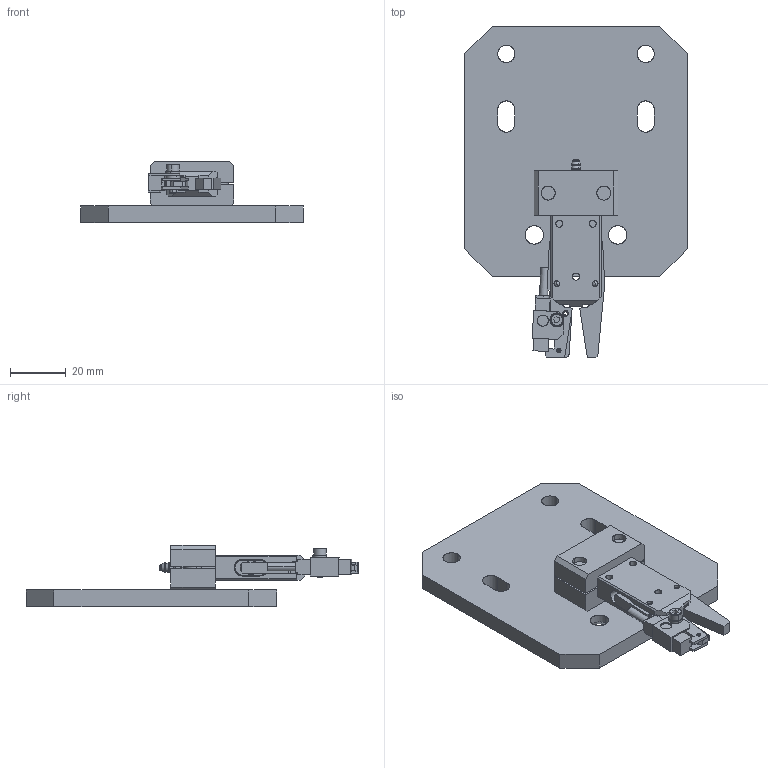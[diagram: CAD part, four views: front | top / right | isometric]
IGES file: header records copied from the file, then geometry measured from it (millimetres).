
Start section: SolidWorks IGES file using analytic representation for surfaces
Global section: file name: E:\EFCKishi\ランナーチャック\IGES\RM-007.IGS; native system: SolidWorks 2006 by SolidWorks Corporation; preprocessor: SolidWorks 2006 by SolidWorks Corporation; author: CAD58; date: 080912.174444; units: millimetre
Bounding box: 80 x 119.18 x 22 mm (x, y, z)
Surface area: 28777.8 mm2 (no closed solid volume)
Topology: 0 solids, 0 shells, 540 faces, 7149 edges, 7137 vertices
Faces by surface type: revolution 270, bspline 270
